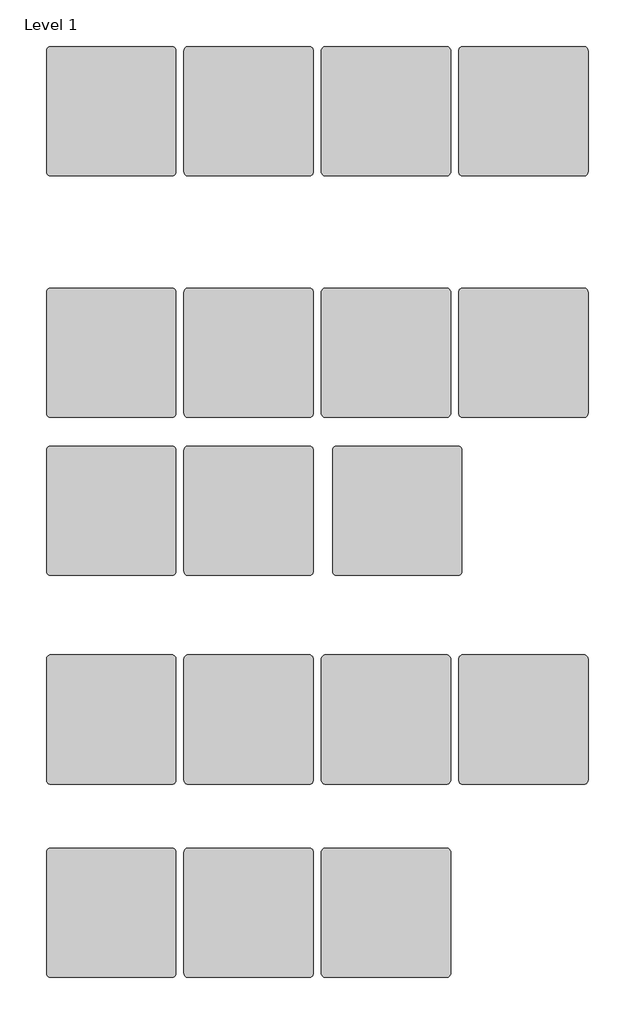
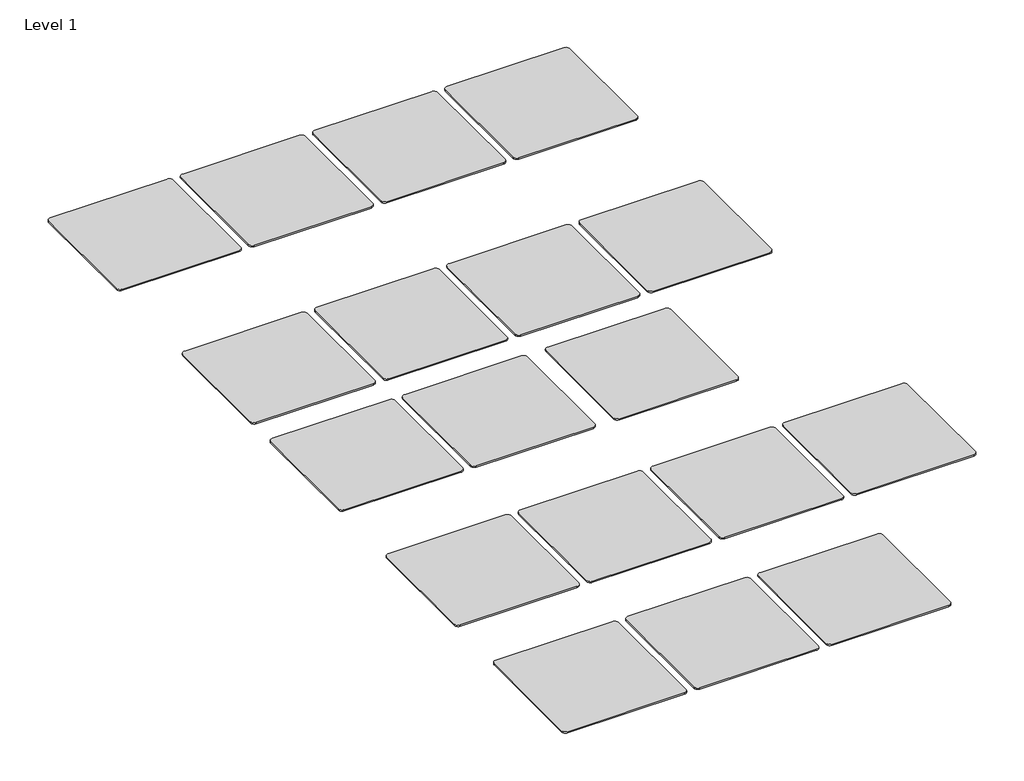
# One storey: 18 proxies.
"""IFC4 building model written with IfcOpenShell, lengths in millimetres."""

import ifcopenshell
import ifcopenshell.guid

model = None  # the IFC model being written
_history = None  # IfcOwnerHistory: only IFC2X3 demands one
_inside = {}  # id of a spatial element -> (the spatial element, [elements in it])
_under = {}  # id of a project, library or spatial element -> (it, [spatial elements below it])
_declared = {}  # id of a project -> (the project, [libraries it declares])
_typed = {}  # id of a type object -> (the type object, [elements of that type])
_made_of = {}  # id of a material, layer set ... -> (it, [elements and type objects made of it])


def new_model(schema):
    """Start an empty IFC model of exactly this schema.

    Asked for "IFC4X3", IfcOpenShell would pick the latest addendum, in which some entities
    have other attributes; the version numbers below select the first issue.
    IFC2X3 requires an IfcOwnerHistory on every rooted entity: one is made here for all.
    """
    global model, _history
    if schema == "IFC4X3":
        model = ifcopenshell.file(schema_version=(4, 3, 0, 0))
    else:
        model = ifcopenshell.file(schema=schema)
    _inside.clear()
    _under.clear()
    _declared.clear()
    _typed.clear()
    _made_of.clear()
    _history = None
    if model.schema == "IFC2X3":
        org = make("IfcOrganization", Name="unknown")
        user = make(
            "IfcPersonAndOrganization",
            ThePerson=make("IfcPerson", FamilyName="unknown"),
            TheOrganization=org,
        )
        app = make(
            "IfcApplication",
            ApplicationDeveloper=org,
            Version="unknown",
            ApplicationFullName="unknown",
            ApplicationIdentifier="unknown",
        )
        _history = make(
            "IfcOwnerHistory",
            OwningUser=user,
            OwningApplication=app,
            ChangeAction="ADDED",
            CreationDate=0,
        )
    return model


def make(cls, **values):
    """One entity of the class cls with the attributes given. An attribute that is None is left unset."""
    return model.create_entity(
        cls, **{name: value for name, value in values.items() if value is not None}
    )


def rooted(cls, **values):
    """An entity with a GlobalId (a new one), such as an element, a storey or a relation."""
    return make(cls, GlobalId=ifcopenshell.guid.new(), OwnerHistory=_history, **values)


def si_unit(unit_type, name, prefix=None):
    """IfcSIUnit, for example si_unit("LENGTHUNIT", "METRE", prefix="MILLI")."""
    return make("IfcSIUnit", UnitType=unit_type, Prefix=prefix, Name=name)


def assignment(units):
    """IfcUnitAssignment: the units of a project."""
    return None if units is None else make("IfcUnitAssignment", Units=units)


def point(xyz):
    """IfcCartesianPoint."""
    return None if xyz is None else make("IfcCartesianPoint", Coordinates=xyz)


def direction(xyz):
    """IfcDirection."""
    return None if xyz is None else make("IfcDirection", DirectionRatios=xyz)


def frame(location, z_axis=None, x_axis=None):
    """IfcAxis2Placement3D, a coordinate frame: its origin and axes. An axis left out is left unset."""
    return make(
        "IfcAxis2Placement3D",
        Location=point(location),
        Axis=direction(z_axis),
        RefDirection=direction(x_axis),
    )


def frame_2d(location, x_axis=None):
    """IfcAxis2Placement2D, a coordinate frame in the plane: its origin and x axis."""
    return make(
        "IfcAxis2Placement2D", Location=point(location), RefDirection=direction(x_axis)
    )


def origin():
    """The frame at (0, 0, 0) with its axes left unset."""
    return frame((0.0, 0.0, 0.0))


def origin_with_axes():
    """The frame at (0, 0, 0) with the z axis (0, 0, 1) and the x axis (1, 0, 0) written out."""
    return frame((0.0, 0.0, 0.0), z_axis=(0.0, 0.0, 1.0), x_axis=(1.0, 0.0, 0.0))


def place(relative_to, where):
    """IfcLocalPlacement: puts the frame where relative to a parent placement (None: the world)."""
    return make(
        "IfcLocalPlacement", PlacementRelTo=relative_to, RelativePlacement=where
    )


def context(
    kind, dimensions, precision=None, world=None, true_north=None, identifier=None
):
    """IfcGeometricRepresentationContext, for example the 3D "Model" context."""
    return make(
        "IfcGeometricRepresentationContext",
        ContextIdentifier=identifier,
        ContextType=kind,
        CoordinateSpaceDimension=dimensions,
        Precision=precision,
        WorldCoordinateSystem=world,
        TrueNorth=true_north,
    )


def project(units=None, contexts=None):
    """IfcProject with its units and contexts."""
    return rooted(
        "IfcProject",
        Name="project",
        RepresentationContexts=contexts,
        UnitsInContext=assignment(units),
    )


def spatial(cls, under=None, at=None, **own):
    """A site, building, storey or space (cls), placed at a placement, below another one or the project."""
    s = rooted(cls, ObjectPlacement=at, **own)
    if under is not None:
        _under.setdefault(under.id(), (under, []))[1].append(s)
    return s


def polyline(points):
    """IfcPolyline through the points."""
    return make("IfcPolyline", Points=[point(p) for p in points])


def circle_curve(where, radius):
    """IfcCircle in the frame where."""
    return make("IfcCircle", Position=where, Radius=radius)


def trimmed(basis, trim1, trim2, sense, master):
    """IfcTrimmedCurve: the piece of a basis curve between two trims."""
    return make(
        "IfcTrimmedCurve",
        BasisCurve=basis,
        Trim1=trim1,
        Trim2=trim2,
        SenseAgreement=sense,
        MasterRepresentation=master,
    )


def segment(curve, same_sense, transition):
    """IfcCompositeCurveSegment."""
    return make(
        "IfcCompositeCurveSegment",
        Transition=transition,
        SameSense=same_sense,
        ParentCurve=curve,
    )


def composite_curve(segments, self_intersect=None):
    """IfcCompositeCurve: segments joined end to end."""
    return make("IfcCompositeCurve", Segments=segments, SelfIntersect=self_intersect)


def outline(outer, holes=None, kind="AREA"):
    """IfcArbitraryClosedProfileDef: a profile drawn as a closed curve; with holes, ...WithVoids."""
    if holes is None:
        return make("IfcArbitraryClosedProfileDef", ProfileType=kind, OuterCurve=outer)
    return make(
        "IfcArbitraryProfileDefWithVoids",
        ProfileType=kind,
        OuterCurve=outer,
        InnerCurves=holes,
    )


def extrude(swept, where, along, depth):
    """IfcExtrudedAreaSolid: the profile swept, set in the frame where, extruded along a direction by depth."""
    return make(
        "IfcExtrudedAreaSolid",
        SweptArea=swept,
        Position=where,
        ExtrudedDirection=direction(along),
        Depth=depth,
    )


def shape(context_of_items, identifier, shape_type, items):
    """IfcShapeRepresentation: the items that make up one representation, for example the "Body"."""
    return make(
        "IfcShapeRepresentation",
        ContextOfItems=context_of_items,
        RepresentationIdentifier=identifier,
        RepresentationType=shape_type,
        Items=items,
    )


def source(mapping_origin, context_of_items, identifier, shape_type, items):
    """IfcRepresentationMap: a shape defined once, which mapped items show again and again."""
    return make(
        "IfcRepresentationMap",
        MappingOrigin=mapping_origin,
        MappedRepresentation=shape(context_of_items, identifier, shape_type, items),
    )


def transform(
    local_origin,
    x_axis=None,
    y_axis=None,
    z_axis=None,
    scale=None,
    scale2=None,
    scale3=None,
    uniform=True,
):
    """IfcCartesianTransformationOperator3D, or its non-uniform kind. x_axis, y_axis, z_axis: its Axis1, 2, 3."""
    if uniform:
        return make(
            "IfcCartesianTransformationOperator3D",
            Axis1=direction(x_axis),
            Axis2=direction(y_axis),
            LocalOrigin=point(local_origin),
            Scale=scale,
            Axis3=direction(z_axis),
        )
    return make(
        "IfcCartesianTransformationOperator3DnonUniform",
        Axis1=direction(x_axis),
        Axis2=direction(y_axis),
        LocalOrigin=point(local_origin),
        Scale=scale,
        Axis3=direction(z_axis),
        Scale2=scale2,
        Scale3=scale3,
    )


def mapped(mapping_source, mapping_target):
    """IfcMappedItem: shows the shape of a source again, moved by a transform."""
    return make(
        "IfcMappedItem", MappingSource=mapping_source, MappingTarget=mapping_target
    )


def made_of(thing, what):
    """Note that an element or type object is made of a material, layer set ...; save() writes the relation."""
    if what is not None:
        _made_of.setdefault(what.id(), (what, []))[1].append(thing)
    return thing


def element(
    cls,
    number,
    at=None,
    inside=None,
    cuts=None,
    type_object=None,
    material=None,
    context=None,
    identifier="Body",
    shape_type=None,
    held_by="IfcProductDefinitionShape",
    body=None,
    shapes=None,
    **own,
):
    """One element of the class cls, such as IfcWall. Its Tag is "e" and its number.

    at: its placement. inside: the storey or other place that contains it. cuts: it is an
    opening in that element (IfcRelVoidsElement). A single representation is given by context,
    identifier, shape_type and body (its items); several are given by shapes. held_by: the class
    of the entity that holds the representations. save() writes the other relations.
    """
    e = rooted(cls, Tag="e%d" % number, ObjectPlacement=at, **own)
    if body is not None:
        shapes = [shape(context, identifier, shape_type, body)]
    if shapes is not None:
        e.Representation = make(held_by, Representations=shapes)
    if inside is not None:
        _inside.setdefault(inside.id(), (inside, []))[1].append(e)
    if cuts is not None:
        rooted(
            "IfcRelVoidsElement", RelatingBuildingElement=cuts, RelatedOpeningElement=e
        )
    if type_object is not None:
        _typed.setdefault(type_object.id(), (type_object, []))[1].append(e)
    return made_of(e, material)


def aggregate(whole, parts):
    """IfcRelAggregates: a whole, such as a stair, and the parts it consists of."""
    return rooted("IfcRelAggregates", RelatingObject=whole, RelatedObjects=parts)


def save(model, path):
    """Write the relations noted so far, then the file.

    IfcRelAggregates (storeys below a building ...), IfcRelContainedInSpatialStructure (elements
    in a storey), IfcRelDefinesByType, IfcRelAssociatesMaterial and IfcRelDeclares: one each for
    every whole, place, type object, material and project.
    """
    for whole, parts in _under.values():
        aggregate(whole, parts)
    for where, things in _inside.values():
        rooted(
            "IfcRelContainedInSpatialStructure",
            RelatedElements=things,
            RelatingStructure=where,
        )
    for kind, things in _typed.values():
        rooted("IfcRelDefinesByType", RelatedObjects=things, RelatingType=kind)
    for what, things in _made_of.values():
        rooted("IfcRelAssociatesMaterial", RelatedObjects=things, RelatingMaterial=what)
    for by, libraries in _declared.values():
        rooted("IfcRelDeclares", RelatingContext=by, RelatedDefinitions=libraries)
    model.write(path)


def materialsample_type_1_aebe469f(model_context):
    return source(origin(), model_context, "Body", "SweptSolid", [
        extrude(outline(composite_curve([segment(polyline([(2362.2, 0.0), (76.2, 0.0)]), True, "CONTINUOUS"), segment(trimmed(circle_curve(frame_2d((76.2, 76.2)), 76.2), [point((76.2, 0.0))], [point((0.0, 76.2))], False, "CARTESIAN"), True, "CONTINUOUS"), segment(polyline([(0.0, 76.2), (0.0, 2362.2)]), True, "CONTINUOUS"), segment(trimmed(circle_curve(frame_2d((76.2, 2362.2)), 76.2), [point((0.0, 2362.2))], [point((76.2, 2438.4))], False, "CARTESIAN"), True, "CONTINUOUS"), segment(polyline([(76.2, 2438.4), (2362.2, 2438.4)]), True, "CONTINUOUS"), segment(trimmed(circle_curve(frame_2d((2362.2, 2362.2)), 76.2), [point((2362.2, 2438.4))], [point((2438.4, 2362.2))], False, "CARTESIAN"), True, "CONTINUOUS"), segment(polyline([(2438.4, 2362.2), (2438.4, 76.2)]), True, "CONTINUOUS"), segment(trimmed(circle_curve(frame_2d((2362.2, 76.2)), 76.2), [point((2438.4, 76.2))], [point((2362.2, 0.0))], False, "CARTESIAN"), True, "CONTINUOUS")], self_intersect=False)), origin_with_axes(), (0.0, 0.0, 1.0), 25.4),
    ])


model = new_model("IFC4")

# Units and contexts
model_context = context("Model", 3, world=origin())
ifc_project = project(units=[si_unit("LENGTHUNIT", "METRE", prefix="MILLI")], contexts=[model_context])

# Site, building, storey
site = spatial("IfcSite", under=ifc_project)
building = spatial("IfcBuilding", under=site)
storey = spatial("IfcBuildingStorey", under=building, Name="Level 1", Elevation=0.0)

# Proxies
placement = place(None, origin())
materialsample_type_1_shape = materialsample_type_1_aebe469f(model_context)
element("IfcBuildingElementProxy", 1, Name="MaterialSample : Type 1", ObjectType="MaterialSample : Type 1", at=placement, inside=storey, context=model_context, shape_type="MappedRepresentation", body=[
    mapped(materialsample_type_1_shape, transform((-7315.2, -4553.7601885, 0.0), x_axis=(1.0, 0.0, 0.0), y_axis=(0.0, 1.0, 0.0), z_axis=(0.0, 0.0, 1.0))),
])
element("IfcBuildingElementProxy", 2, Name="MaterialSample : Type 1", ObjectType="MaterialSample : Type 1", at=placement, inside=storey, context=model_context, shape_type="MappedRepresentation", body=[
    mapped(materialsample_type_1_shape, transform((-15087.6, 0.0, 0.0), x_axis=(1.0, 0.0, 0.0), y_axis=(0.0, 1.0, 0.0), z_axis=(0.0, 0.0, 1.0))),
])
element("IfcBuildingElementProxy", 3, Name="MaterialSample : Type 1", ObjectType="MaterialSample : Type 1", at=placement, inside=storey, context=model_context, shape_type="MappedRepresentation", body=[
    mapped(materialsample_type_1_shape, transform((-12496.8, 0.0, 0.0), x_axis=(1.0, 0.0, 0.0), y_axis=(0.0, 1.0, 0.0), z_axis=(0.0, 0.0, 1.0))),
])
element("IfcBuildingElementProxy", 4, Name="MaterialSample : Type 1", ObjectType="MaterialSample : Type 1", at=placement, inside=storey, context=model_context, shape_type="MappedRepresentation", body=[
    mapped(materialsample_type_1_shape, transform((-9906.0, 0.0, 0.0), x_axis=(1.0, 0.0, 0.0), y_axis=(0.0, 1.0, 0.0), z_axis=(0.0, 0.0, 1.0))),
])
element("IfcBuildingElementProxy", 5, Name="MaterialSample : Type 1", ObjectType="MaterialSample : Type 1", at=placement, inside=storey, context=model_context, shape_type="MappedRepresentation", body=[
    mapped(materialsample_type_1_shape, transform((-7315.2, 0.0, 0.0), x_axis=(1.0, 0.0, 0.0), y_axis=(0.0, 1.0, 0.0), z_axis=(0.0, 0.0, 1.0))),
])
element("IfcBuildingElementProxy", 6, Name="MaterialSample : Type 1", ObjectType="MaterialSample : Type 1", at=placement, inside=storey, context=model_context, shape_type="MappedRepresentation", body=[
    mapped(materialsample_type_1_shape, transform((-15087.6, -4553.7601885, 0.0), x_axis=(1.0, 0.0, 0.0), y_axis=(0.0, 1.0, 0.0), z_axis=(0.0, 0.0, 1.0))),
])
element("IfcBuildingElementProxy", 7, Name="MaterialSample : Type 1", ObjectType="MaterialSample : Type 1", at=placement, inside=storey, context=model_context, shape_type="MappedRepresentation", body=[
    mapped(materialsample_type_1_shape, transform((-12496.8, -4553.7601885, 0.0), x_axis=(1.0, 0.0, 0.0), y_axis=(0.0, 1.0, 0.0), z_axis=(0.0, 0.0, 1.0))),
])
element("IfcBuildingElementProxy", 8, Name="MaterialSample : Type 1", ObjectType="MaterialSample : Type 1", at=placement, inside=storey, context=model_context, shape_type="MappedRepresentation", body=[
    mapped(materialsample_type_1_shape, transform((-9906.0, -4553.7601885, 0.0), x_axis=(1.0, 0.0, 0.0), y_axis=(0.0, 1.0, 0.0), z_axis=(0.0, 0.0, 1.0))),
])
element("IfcBuildingElementProxy", 9, Name="MaterialSample : Type 1", ObjectType="MaterialSample : Type 1", at=placement, inside=storey, context=model_context, shape_type="MappedRepresentation", body=[
    mapped(materialsample_type_1_shape, transform((-9692.5057446, -7533.9074781, 0.0), x_axis=(1.0, 0.0, 0.0), y_axis=(0.0, 1.0, 0.0), z_axis=(0.0, 0.0, 1.0))),
])
element("IfcBuildingElementProxy", 10, Name="MaterialSample : Type 1", ObjectType="MaterialSample : Type 1", at=placement, inside=storey, context=model_context, shape_type="MappedRepresentation", body=[
    mapped(materialsample_type_1_shape, transform((-15087.6, -7533.9074781, 0.0), x_axis=(1.0, 0.0, 0.0), y_axis=(0.0, 1.0, 0.0), z_axis=(0.0, 0.0, 1.0))),
])
element("IfcBuildingElementProxy", 11, Name="MaterialSample : Type 1", ObjectType="MaterialSample : Type 1", at=placement, inside=storey, context=model_context, shape_type="MappedRepresentation", body=[
    mapped(materialsample_type_1_shape, transform((-12496.8, -7533.9074781, 0.0), x_axis=(1.0, 0.0, 0.0), y_axis=(0.0, 1.0, 0.0), z_axis=(0.0, 0.0, 1.0))),
])
element("IfcBuildingElementProxy", 12, Name="MaterialSample : Type 1", ObjectType="MaterialSample : Type 1", at=placement, inside=storey, context=model_context, shape_type="MappedRepresentation", body=[
    mapped(materialsample_type_1_shape, transform((-15087.6, -11471.1936696, 0.0), x_axis=(1.0, 0.0, 0.0), y_axis=(0.0, 1.0, 0.0), z_axis=(0.0, 0.0, 1.0))),
])
element("IfcBuildingElementProxy", 13, Name="MaterialSample : Type 1", ObjectType="MaterialSample : Type 1", at=placement, inside=storey, context=model_context, shape_type="MappedRepresentation", body=[
    mapped(materialsample_type_1_shape, transform((-12496.8, -11471.1936696, 0.0), x_axis=(1.0, 0.0, 0.0), y_axis=(0.0, 1.0, 0.0), z_axis=(0.0, 0.0, 1.0))),
])
element("IfcBuildingElementProxy", 14, Name="MaterialSample : Type 1", ObjectType="MaterialSample : Type 1", at=placement, inside=storey, context=model_context, shape_type="MappedRepresentation", body=[
    mapped(materialsample_type_1_shape, transform((-9906.0, -11471.1936696, 0.0), x_axis=(1.0, 0.0, 0.0), y_axis=(0.0, 1.0, 0.0), z_axis=(0.0, 0.0, 1.0))),
])
element("IfcBuildingElementProxy", 15, Name="MaterialSample : Type 1", ObjectType="MaterialSample : Type 1", at=placement, inside=storey, context=model_context, shape_type="MappedRepresentation", body=[
    mapped(materialsample_type_1_shape, transform((-7315.2, -11471.1936696, 0.0), x_axis=(1.0, 0.0, 0.0), y_axis=(0.0, 1.0, 0.0), z_axis=(0.0, 0.0, 1.0))),
])
element("IfcBuildingElementProxy", 16, Name="MaterialSample : Type 1", ObjectType="MaterialSample : Type 1", at=placement, inside=storey, context=model_context, shape_type="MappedRepresentation", body=[
    mapped(materialsample_type_1_shape, transform((-15087.6, -15114.8830253, 0.0), x_axis=(1.0, 0.0, 0.0), y_axis=(0.0, 1.0, 0.0), z_axis=(0.0, 0.0, 1.0))),
])
element("IfcBuildingElementProxy", 17, Name="MaterialSample : Type 1", ObjectType="MaterialSample : Type 1", at=placement, inside=storey, context=model_context, shape_type="MappedRepresentation", body=[
    mapped(materialsample_type_1_shape, transform((-12496.8, -15114.8830253, 0.0), x_axis=(1.0, 0.0, 0.0), y_axis=(0.0, 1.0, 0.0), z_axis=(0.0, 0.0, 1.0))),
])
element("IfcBuildingElementProxy", 18, Name="MaterialSample : Type 1", ObjectType="MaterialSample : Type 1", at=placement, inside=storey, context=model_context, shape_type="MappedRepresentation", body=[
    mapped(materialsample_type_1_shape, transform((-9906.0, -15114.8830253, 0.0), x_axis=(1.0, 0.0, 0.0), y_axis=(0.0, 1.0, 0.0), z_axis=(0.0, 0.0, 1.0))),
])

save(model, "model.ifc")
